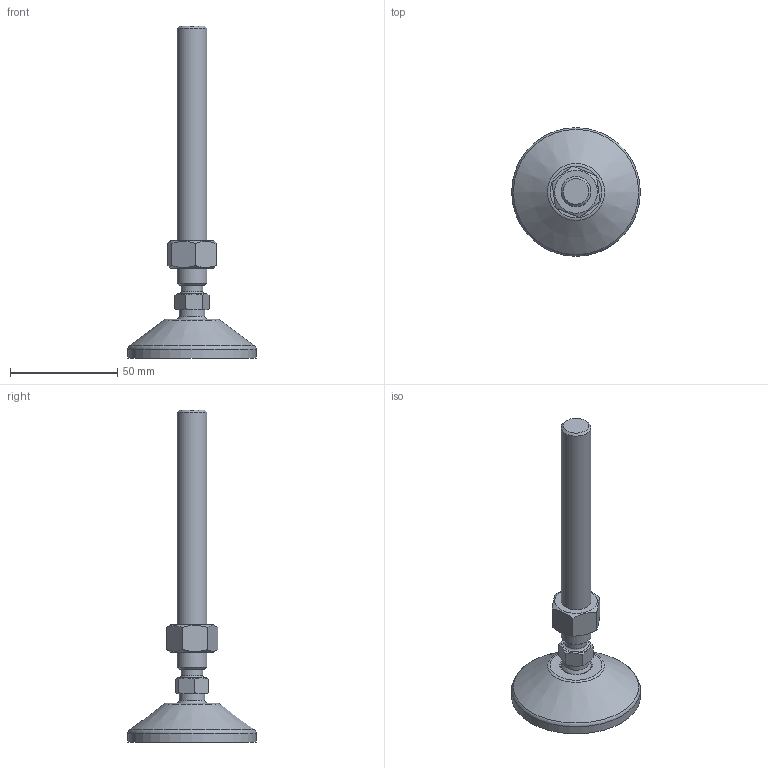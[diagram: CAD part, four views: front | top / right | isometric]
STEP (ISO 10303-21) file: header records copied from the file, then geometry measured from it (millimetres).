
FILE_DESCRIPTION(('STEP AP203'), '1');
FILE_NAME('栖闉罻', '', ('UNSPECIFIED'), ('UNSPECIFIED'), 'C3D Converter', 'C3D Toolkit', '');
FILE_SCHEMA(('CONFIG_CONTROL_DESIGN'));
Length unit declared in the file: millimetre
Products named in the file (4): A00020.114125; A00015.1060
Assembly tree (3 placements, depth 3):
  (unnamed)
    A00020.114125
      (unnamed)
    A00015.1060
Bounding box: 60 x 60 x 154.9 mm (x, y, z)
Volume: 45278 mm3; surface area: 18452.4 mm2
Topology: 3 solids, 3 shells, 165 faces, 428 edges, 282 vertices
Faces by surface type: plane 87, cylinder 34, cone 21, torus 21, sphere 2
Full cylindrical faces by diameter (mm): 4 x8, 10.2 x1, 11.835 x1, 12 x1, 14 x1, 14.3 x1, 15 x2, 15.5 x1, 50.5 x1, 60 x1
Entity records: 8739 total; most frequent: CARTESIAN_POINT 3319, DIRECTION 812, ORIENTED_EDGE 786, EDGE_CURVE 393, AXIS2_PLACEMENT_3D 336, VERTEX_POINT 281, EDGE_LOOP 214, FACE_BOUND 174
